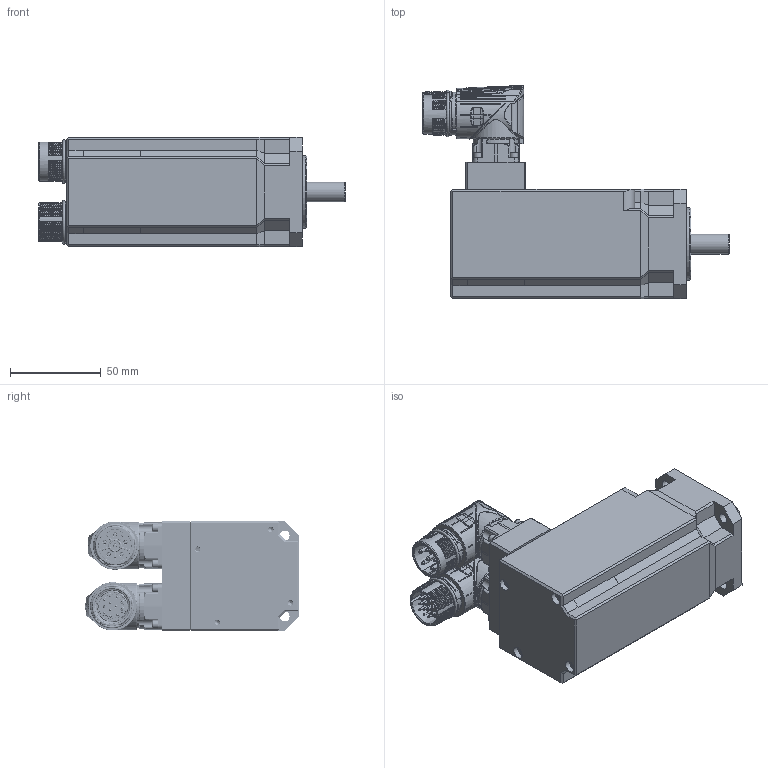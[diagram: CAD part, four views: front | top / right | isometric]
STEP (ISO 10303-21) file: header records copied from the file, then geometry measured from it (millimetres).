
FILE_DESCRIPTION(/* description */ (''),/* implementation_level */ '2;1');
FILE_NAME(/* name */ 'D:\InventorWorkspace2017\CAD\Projekte_EDEM\HLR\Zubehörteile\SMH60601,4811S2I642.stp',/* time_stamp */ '2019-02-13T12:21:40+01:00',/* author */ ('544672'),/* organization */ (''),/* preprocessor_version */ 'ST-DEVELOPER v16.5',/* originating_system */ 'Autodesk Inventor 2017',/* authorisation */ '');
FILE_SCHEMA (('AUTOMOTIVE_DESIGN { 1 0 10303 214 3 1 1 }'));
Products named in the file (1): SMH60451.4811S2I642
Bounding box: 168.41 x 117.33 x 60 mm (x, y, z)
Volume: 256956.5 mm3; surface area: 105789.3 mm2
Topology: 2 solids, 25 shells, 4329 faces, 10982 edges, 6726 vertices
Faces by surface type: bspline 1346, cylinder 1301, plane 886, torus 435, cone 228, sphere 133
Full cylindrical faces by diameter (mm): 0.8 x7, 1 x14, 1.18 x12, 1.2 x12, 1.4 x4, 1.9 x12, 2 x6, 2.15 x6, 2.2 x12, 2.459 x19, 3 x9, 3.1 x8, 3.167 x1, 3.2 x1, 3.5 x12, 4 x1, 4.333 x1, 4.5 x10, 5.5 x6, 5.9 x2, 6 x5, 6.5 x4, 11 x1, 12 x1, 15 x1, 17.4 x1, 19.16 x1, 20 x2, 21.6 x1, 22.5 x1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
Entity records: 259357 total; most frequent: CARTESIAN_POINT 159025, ORIENTED_EDGE 20854, DIRECTION 18753, EDGE_CURVE 10427, AXIS2_PLACEMENT_3D 7979, VERTEX_POINT 6579, EDGE_LOOP 4806, ADVANCED_FACE 4324
